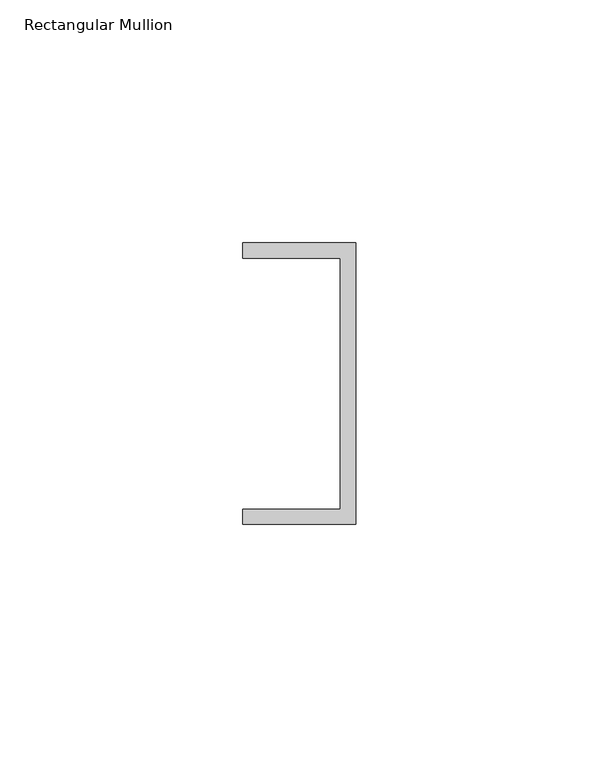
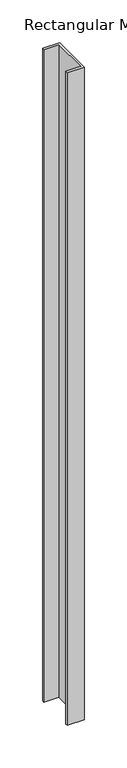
"""IFC4 building model written with IfcOpenShell, lengths in millimetres: member geometry, Rectangular Mullion : Frame-Teknion-Altos-Base_Channel."""

from ifc_helpers import new_model, si_unit, frame, origin, place, context, project, spatial, polyline, outline, extrude, source, transform, mapped, element, save


def rectangular_mullion_50b1d124(model_context):
    return source(origin(), model_context, "Body", "SweptSolid", [
        extrude(outline(polyline([(0.0, 29.0214844), (0.0, -29.0214844), (-23.3164063, -29.0214844), (-23.3164063, -25.8464844), (-3.175, -25.8464844), (-3.175, 25.8464844), (-23.3164063, 25.8464844), (-23.3164063, 29.0214844), (0.0, 29.0214844)])), frame((0.0, 0.0, -937.2203125), z_axis=(0.0, 0.0, 1.0), x_axis=(1.0, 0.0, 0.0)), (0.0, 0.0, 1.0), 937.2203125),
    ])


if __name__ == "__main__":
    model = new_model("IFC4")
    model_context = context("Model", 3, world=origin())
    ifc_project = project(units=[si_unit("LENGTHUNIT", "METRE", prefix="MILLI")], contexts=[model_context])
    site = spatial("IfcSite", under=ifc_project)
    building = spatial("IfcBuilding", under=site)
    placement = place(None, origin())
    rectangular_mullion_shape = rectangular_mullion_50b1d124(model_context)
    element("IfcMember", 1, ObjectType="Rectangular Mullion : Frame-Teknion-Altos-Base_Channel", at=placement, inside=building, context=model_context, shape_type="MappedRepresentation", body=[
        mapped(rectangular_mullion_shape, transform((0.0, 0.0, 0.0), x_axis=(1.0, 0.0, 0.0), y_axis=(0.0, 1.0, 0.0), z_axis=(0.0, 0.0, 1.0))),
    ])
    save(model, "model.ifc")
